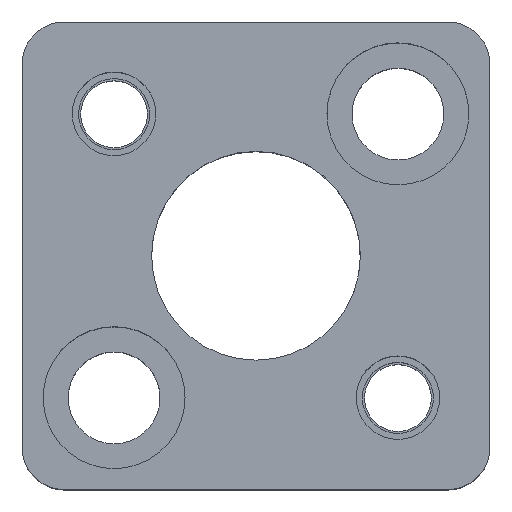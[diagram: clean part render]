
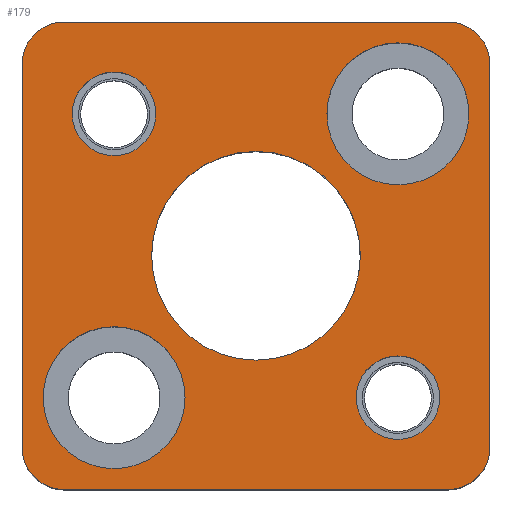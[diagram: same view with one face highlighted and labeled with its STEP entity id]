
A CAD part, top view. The second image highlights one B-rep face of the part: STEP entity #179.
In plain terms, the highlighted planar face has unit normal (0, 0, 1).
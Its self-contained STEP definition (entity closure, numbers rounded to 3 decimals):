
#111=FACE_BOUND('',#314,.T.);
#112=FACE_BOUND('',#315,.T.);
#113=FACE_BOUND('',#316,.T.);
#114=FACE_BOUND('',#317,.T.);
#115=FACE_BOUND('',#318,.T.);
#116=FACE_BOUND('',#319,.T.);
#140=PLANE('',#1098);
#179=ADVANCED_FACE('',(#111,#112,#113,#114,#115,#116),#140,.T.);
#314=EDGE_LOOP('',(#527,#528,#529,#530,#531,#532,#533,#534));
#315=EDGE_LOOP('',(#535,#536));
#316=EDGE_LOOP('',(#537,#538));
#317=EDGE_LOOP('',(#539,#540));
#318=EDGE_LOOP('',(#541,#542));
#319=EDGE_LOOP('',(#543,#544));
#377=CIRCLE('',#1062,5.);
#379=CIRCLE('',#1065,5.);
#381=CIRCLE('',#1069,5.);
#383=CIRCLE('',#1072,5.);
#393=CIRCLE('',#1088,5.);
#394=CIRCLE('',#1089,5.);
#395=CIRCLE('',#1090,5.);
#396=CIRCLE('',#1091,5.);
#397=CIRCLE('',#1092,8.5);
#398=CIRCLE('',#1093,8.5);
#399=CIRCLE('',#1094,8.5);
#400=CIRCLE('',#1095,8.5);
#401=CIRCLE('',#1096,12.5);
#402=CIRCLE('',#1097,12.5);
#527=ORIENTED_EDGE('',*,*,#838,.T.);
#528=ORIENTED_EDGE('',*,*,#839,.T.);
#529=ORIENTED_EDGE('',*,*,#840,.T.);
#530=ORIENTED_EDGE('',*,*,#841,.T.);
#531=ORIENTED_EDGE('',*,*,#842,.T.);
#532=ORIENTED_EDGE('',*,*,#843,.T.);
#533=ORIENTED_EDGE('',*,*,#844,.T.);
#534=ORIENTED_EDGE('',*,*,#845,.T.);
#535=ORIENTED_EDGE('',*,*,#846,.F.);
#536=ORIENTED_EDGE('',*,*,#847,.F.);
#537=ORIENTED_EDGE('',*,*,#848,.F.);
#538=ORIENTED_EDGE('',*,*,#849,.F.);
#539=ORIENTED_EDGE('',*,*,#824,.F.);
#540=ORIENTED_EDGE('',*,*,#820,.F.);
#541=ORIENTED_EDGE('',*,*,#818,.F.);
#542=ORIENTED_EDGE('',*,*,#814,.F.);
#543=ORIENTED_EDGE('',*,*,#850,.T.);
#544=ORIENTED_EDGE('',*,*,#851,.T.);
#715=VERTEX_POINT('',#1546);
#716=VERTEX_POINT('',#1547);
#719=VERTEX_POINT('',#1559);
#720=VERTEX_POINT('',#1560);
#731=VERTEX_POINT('',#1596);
#732=VERTEX_POINT('',#1597);
#733=VERTEX_POINT('',#1599);
#734=VERTEX_POINT('',#1601);
#735=VERTEX_POINT('',#1603);
#736=VERTEX_POINT('',#1605);
#737=VERTEX_POINT('',#1607);
#738=VERTEX_POINT('',#1609);
#739=VERTEX_POINT('',#1612);
#740=VERTEX_POINT('',#1613);
#741=VERTEX_POINT('',#1616);
#742=VERTEX_POINT('',#1617);
#743=VERTEX_POINT('',#1620);
#744=VERTEX_POINT('',#1621);
#814=EDGE_CURVE('',#715,#716,#377,.T.);
#818=EDGE_CURVE('',#716,#715,#379,.T.);
#820=EDGE_CURVE('',#719,#720,#381,.T.);
#824=EDGE_CURVE('',#720,#719,#383,.T.);
#838=EDGE_CURVE('',#731,#732,#393,.T.);
#839=EDGE_CURVE('',#732,#733,#931,.T.);
#840=EDGE_CURVE('',#733,#734,#394,.T.);
#841=EDGE_CURVE('',#734,#735,#932,.T.);
#842=EDGE_CURVE('',#735,#736,#395,.T.);
#843=EDGE_CURVE('',#736,#737,#933,.T.);
#844=EDGE_CURVE('',#737,#738,#396,.T.);
#845=EDGE_CURVE('',#738,#731,#934,.T.);
#846=EDGE_CURVE('',#739,#740,#397,.T.);
#847=EDGE_CURVE('',#740,#739,#398,.T.);
#848=EDGE_CURVE('',#741,#742,#399,.T.);
#849=EDGE_CURVE('',#742,#741,#400,.T.);
#850=EDGE_CURVE('',#743,#744,#401,.T.);
#851=EDGE_CURVE('',#744,#743,#402,.T.);
#931=LINE('',#1598,#992);
#932=LINE('',#1602,#993);
#933=LINE('',#1606,#994);
#934=LINE('',#1610,#995);
#992=VECTOR('',#1306,1.);
#993=VECTOR('',#1309,1.);
#994=VECTOR('',#1312,1.);
#995=VECTOR('',#1315,1.);
#1062=AXIS2_PLACEMENT_3D('',#1545,#1244,#1245);
#1065=AXIS2_PLACEMENT_3D('',#1554,#1252,#1253);
#1069=AXIS2_PLACEMENT_3D('',#1558,#1260,#1261);
#1072=AXIS2_PLACEMENT_3D('',#1567,#1268,#1269);
#1088=AXIS2_PLACEMENT_3D('',#1595,#1304,#1305);
#1089=AXIS2_PLACEMENT_3D('',#1600,#1307,#1308);
#1090=AXIS2_PLACEMENT_3D('',#1604,#1310,#1311);
#1091=AXIS2_PLACEMENT_3D('',#1608,#1313,#1314);
#1092=AXIS2_PLACEMENT_3D('',#1611,#1316,#1317);
#1093=AXIS2_PLACEMENT_3D('',#1614,#1318,#1319);
#1094=AXIS2_PLACEMENT_3D('',#1615,#1320,#1321);
#1095=AXIS2_PLACEMENT_3D('',#1618,#1322,#1323);
#1096=AXIS2_PLACEMENT_3D('',#1619,#1324,#1325);
#1097=AXIS2_PLACEMENT_3D('',#1622,#1326,#1327);
#1098=AXIS2_PLACEMENT_3D('',#1623,#1328,#1329);
#1244=DIRECTION('',(0.,0.,1.));
#1245=DIRECTION('',(-1.,0.,0.));
#1252=DIRECTION('',(0.,0.,1.));
#1253=DIRECTION('',(1.,0.,0.));
#1260=DIRECTION('',(0.,0.,1.));
#1261=DIRECTION('',(-1.,0.,0.));
#1268=DIRECTION('',(0.,0.,1.));
#1269=DIRECTION('',(1.,0.,0.));
#1304=DIRECTION('',(0.,0.,1.));
#1305=DIRECTION('',(-0.707,0.707,0.));
#1306=DIRECTION('',(0.,1.,0.));
#1307=DIRECTION('',(0.,0.,1.));
#1308=DIRECTION('',(-0.707,-0.707,0.));
#1309=DIRECTION('',(-1.,0.,0.));
#1310=DIRECTION('',(0.,0.,1.));
#1311=DIRECTION('',(0.707,-0.707,0.));
#1312=DIRECTION('',(0.,-1.,0.));
#1313=DIRECTION('',(0.,0.,1.));
#1314=DIRECTION('',(0.707,0.707,0.));
#1315=DIRECTION('',(1.,0.,0.));
#1316=DIRECTION('',(0.,0.,1.));
#1317=DIRECTION('',(1.,0.,0.));
#1318=DIRECTION('',(0.,0.,1.));
#1319=DIRECTION('',(-1.,0.,0.));
#1320=DIRECTION('',(0.,0.,1.));
#1321=DIRECTION('',(1.,0.,0.));
#1322=DIRECTION('',(0.,0.,1.));
#1323=DIRECTION('',(-1.,0.,0.));
#1324=DIRECTION('',(0.,0.,-1.));
#1325=DIRECTION('',(-1.,0.,0.));
#1326=DIRECTION('',(0.,0.,-1.));
#1327=DIRECTION('',(1.,0.,0.));
#1328=DIRECTION('',(0.,0.,1.));
#1329=DIRECTION('',(-1.,0.,0.));
#1545=CARTESIAN_POINT('',(17.,-17.,35.));
#1546=CARTESIAN_POINT('',(17.,-22.,35.));
#1547=CARTESIAN_POINT('',(17.,-12.,35.));
#1554=CARTESIAN_POINT('',(17.,-17.,35.));
#1558=CARTESIAN_POINT('',(-17.,17.,35.));
#1559=CARTESIAN_POINT('',(-17.,12.,35.));
#1560=CARTESIAN_POINT('',(-17.,22.,35.));
#1567=CARTESIAN_POINT('',(-17.,17.,35.));
#1595=CARTESIAN_POINT('',(23.,-23.,35.));
#1596=CARTESIAN_POINT('',(23.,-28.,35.));
#1597=CARTESIAN_POINT('',(28.,-23.,35.));
#1598=CARTESIAN_POINT('',(28.,23.,35.));
#1599=CARTESIAN_POINT('',(28.,23.,35.));
#1600=CARTESIAN_POINT('',(23.,23.,35.));
#1601=CARTESIAN_POINT('',(23.,28.,35.));
#1602=CARTESIAN_POINT('',(-23.,28.,35.));
#1603=CARTESIAN_POINT('',(-23.,28.,35.));
#1604=CARTESIAN_POINT('',(-23.,23.,35.));
#1605=CARTESIAN_POINT('',(-28.,23.,35.));
#1606=CARTESIAN_POINT('',(-28.,23.,35.));
#1607=CARTESIAN_POINT('',(-28.,-23.,35.));
#1608=CARTESIAN_POINT('',(-23.,-23.,35.));
#1609=CARTESIAN_POINT('',(-23.,-28.,35.));
#1610=CARTESIAN_POINT('',(-23.,-28.,35.));
#1611=CARTESIAN_POINT('',(17.,17.,35.));
#1612=CARTESIAN_POINT('',(17.,25.5,35.));
#1613=CARTESIAN_POINT('',(17.,8.5,35.));
#1614=CARTESIAN_POINT('',(17.,17.,35.));
#1615=CARTESIAN_POINT('',(-17.,-17.,35.));
#1616=CARTESIAN_POINT('',(-17.,-8.5,35.));
#1617=CARTESIAN_POINT('',(-17.,-25.5,35.));
#1618=CARTESIAN_POINT('',(-17.,-17.,35.));
#1619=CARTESIAN_POINT('',(0.,0.,35.));
#1620=CARTESIAN_POINT('',(0.,12.5,35.));
#1621=CARTESIAN_POINT('',(0.,-12.5,35.));
#1622=CARTESIAN_POINT('',(0.,0.,35.));
#1623=CARTESIAN_POINT('',(23.,-28.,35.));
